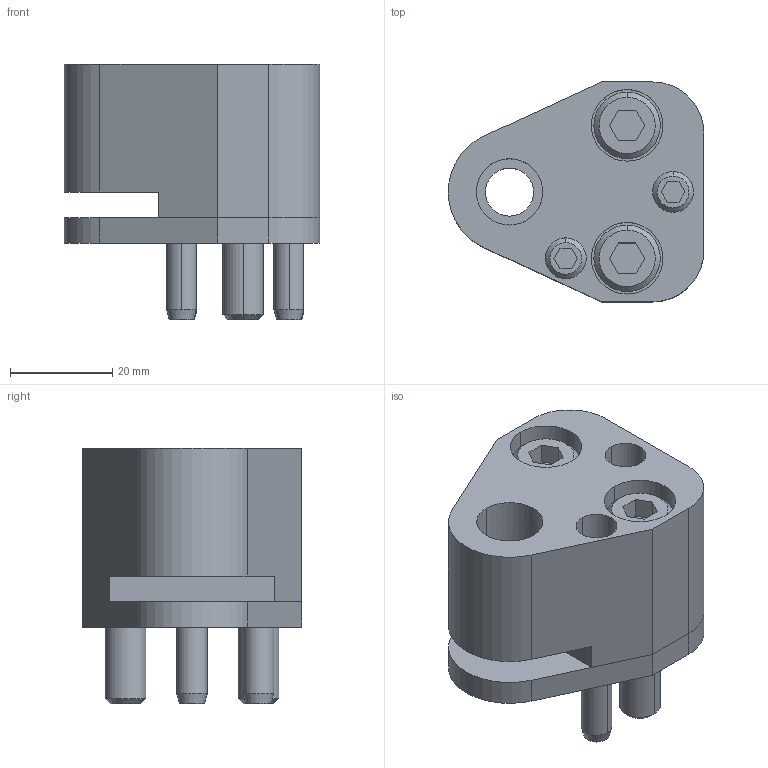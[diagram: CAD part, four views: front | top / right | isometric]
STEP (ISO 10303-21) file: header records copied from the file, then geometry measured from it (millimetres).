
FILE_DESCRIPTION(/* description */ (''),/* implementation_level */ '2;1');
FILE_NAME(/* name */ '3d_cp-fd13_03591_r00.stp',/* time_stamp */ '2011-01-10T14:16:29+09:00',/* author */ ('MISUMI'),/* organization */ (''),/* preprocessor_version */ 'ST-DEVELOPER v11',/* originating_system */ 'UGS - NX 5.0',/* authorisation */ '');
FILE_SCHEMA (('CONFIG_CONTROL_DESIGN'));
Length unit declared in the file: millimetre
Products named in the file (1): 3d_cp-fd13_03591_r00
Bounding box: 50 x 43 x 50 mm (x, y, z)
Volume: 51481.5 mm3; surface area: 21123.9 mm2
Topology: 8 solids, 8 shells, 154 faces, 352 edges, 227 vertices
Faces by surface type: plane 68, cylinder 60, cone 26
Entity records: 4516 total; most frequent: DIRECTION 802, CARTESIAN_POINT 793, ORIENTED_EDGE 704, EDGE_CURVE 352, AXIS2_PLACEMENT_3D 302, VERTEX_POINT 227, LINE 198, VECTOR 198
